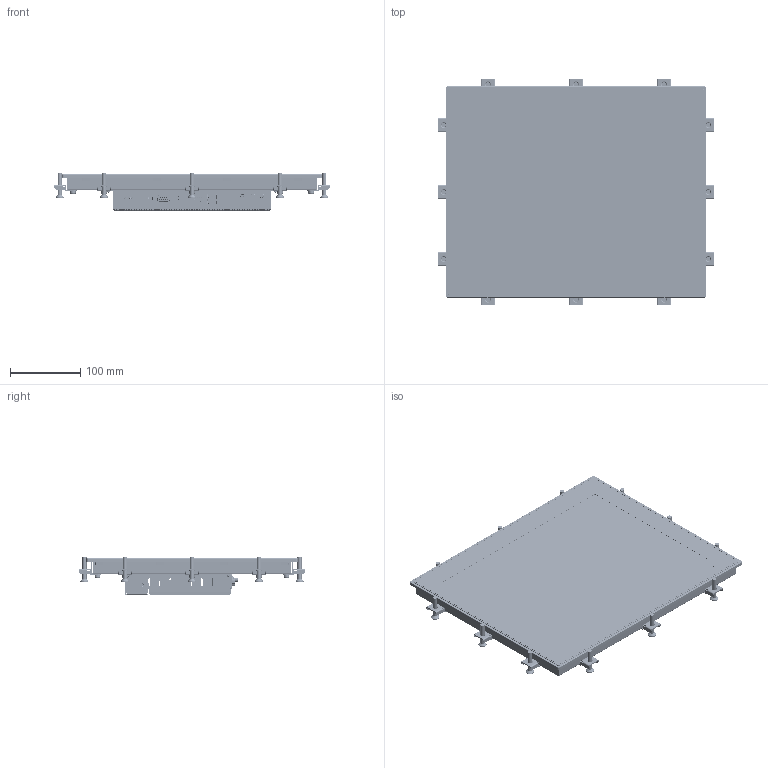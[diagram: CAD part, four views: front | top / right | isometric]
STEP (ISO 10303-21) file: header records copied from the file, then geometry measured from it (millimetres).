
FILE_DESCRIPTION((''),'2;1');
FILE_NAME('APL4C-150','2026-06-02T13:00:12',('gijyu181'),(''),'CREO PARAMETRIC BY PTC INC, 2018050','CREO PARAMETRIC BY PTC INC, 2018050','');
FILE_SCHEMA(('CONFIG_CONTROL_DESIGN','SHAPE_APPEARANCE_LAYERS_GROUPS'));
Products named in the file (1): APL4C-150
Bounding box: 391.4 x 321.4 x 53.5 mm (x, y, z)
Volume: 1531940.3 mm3; surface area: 1017616.5 mm2
Topology: 53 solids, 141 shells, 24405 faces, 70660 edges, 46493 vertices
Faces by surface type: plane 16599, cylinder 5151, extrusion 1249, cone 648, bspline 356, torus 272, sphere 118, revolution 12
Entity records: 939714 total; most frequent: CARTESIAN_POINT 180553, ORIENTED_EDGE 141008, DIRECTION 126030, EDGE_CURVE 70578, VECTOR 55298, LINE 54049, VERTEX_POINT 46491, AXIS2_PLACEMENT_3D 35360
